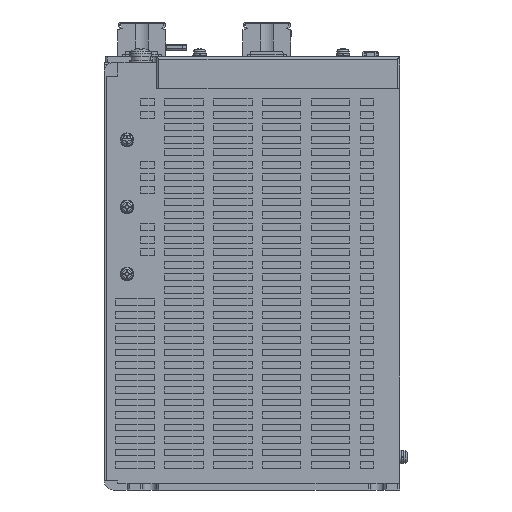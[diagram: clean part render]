
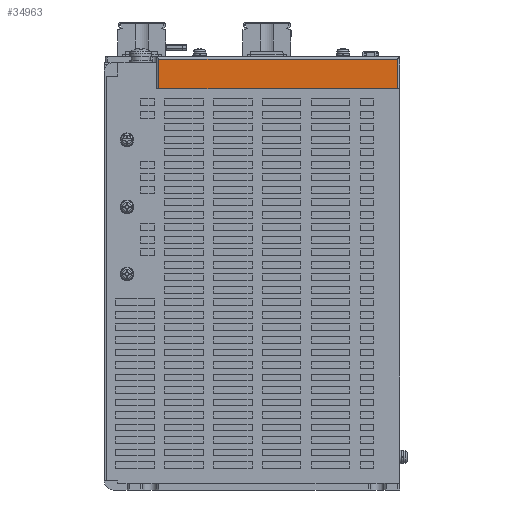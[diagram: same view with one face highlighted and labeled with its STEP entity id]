
A CAD part, front view. The second image highlights one B-rep face of the part: STEP entity #34963.
In plain terms, the highlighted planar face has unit normal (0, -1, 0).
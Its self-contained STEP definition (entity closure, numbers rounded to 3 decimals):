
#1458 = EDGE_LOOP ( 'NONE', ( #59189, #112776, #39645, #264333 ) ) ;
#1839 = VERTEX_POINT ( 'NONE', #92119 ) ;
#2340 = PLANE ( 'NONE',  #95835 ) ;
#13294 = VECTOR ( 'NONE', #174389, 1000. ) ;
#18136 = EDGE_CURVE ( 'NONE', #260823, #102098, #156765, .T. ) ;
#18584 = VECTOR ( 'NONE', #27155, 1000. ) ;
#21822 = CARTESIAN_POINT ( 'NONE',  ( 53.621, -113.446, 460.5 ) ) ;
#27155 = DIRECTION ( 'NONE',  ( 0., 0., 1. ) ) ;
#34963 = ADVANCED_FACE ( 'NONE', ( #45504 ), #2340, .F. ) ;
#39645 = ORIENTED_EDGE ( 'NONE', *, *, #18136, .T. ) ;
#45504 = FACE_OUTER_BOUND ( 'NONE', #1458, .T. ) ;
#46390 = VECTOR ( 'NONE', #251256, 1000. ) ;
#59189 = ORIENTED_EDGE ( 'NONE', *, *, #221839, .F. ) ;
#67592 = LINE ( 'NONE', #212064, #46390 ) ;
#82555 = LINE ( 'NONE', #167579, #205721 ) ;
#92119 = CARTESIAN_POINT ( 'NONE',  ( 53.621, -113.446, 446.5 ) ) ;
#95835 = AXIS2_PLACEMENT_3D ( 'NONE', #204849, #246738, #148110 ) ;
#102098 = VERTEX_POINT ( 'NONE', #129308 ) ;
#112776 = ORIENTED_EDGE ( 'NONE', *, *, #136203, .T. ) ;
#116308 = CARTESIAN_POINT ( 'NONE',  ( 54.621, -113.446, 459.5 ) ) ;
#129308 = CARTESIAN_POINT ( 'NONE',  ( -51.379, -113.446, 459.5 ) ) ;
#136203 = EDGE_CURVE ( 'NONE', #1839, #260823, #230997, .T. ) ;
#148110 = DIRECTION ( 'NONE',  ( -1., 0., 0. ) ) ;
#156588 = EDGE_CURVE ( 'NONE', #102098, #259462, #67592, .T. ) ;
#156765 = LINE ( 'NONE', #116308, #13294 ) ;
#162757 = CARTESIAN_POINT ( 'NONE',  ( 53.621, -113.446, 459.5 ) ) ;
#167579 = CARTESIAN_POINT ( 'NONE',  ( 54.621, -113.446, 446.5 ) ) ;
#174389 = DIRECTION ( 'NONE',  ( -1., 0., 0. ) ) ;
#204849 = CARTESIAN_POINT ( 'NONE',  ( 54.621, -113.446, 460.5 ) ) ;
#205721 = VECTOR ( 'NONE', #229659, 1000. ) ;
#212064 = CARTESIAN_POINT ( 'NONE',  ( -51.379, -113.446, 460.5 ) ) ;
#221839 = EDGE_CURVE ( 'NONE', #1839, #259462, #82555, .T. ) ;
#229659 = DIRECTION ( 'NONE',  ( -1., 0., 0. ) ) ;
#230997 = LINE ( 'NONE', #21822, #18584 ) ;
#246738 = DIRECTION ( 'NONE',  ( 0., 1., 0. ) ) ;
#251256 = DIRECTION ( 'NONE',  ( 0., 0., -1. ) ) ;
#253772 = CARTESIAN_POINT ( 'NONE',  ( -51.379, -113.446, 446.5 ) ) ;
#259462 = VERTEX_POINT ( 'NONE', #253772 ) ;
#260823 = VERTEX_POINT ( 'NONE', #162757 ) ;
#264333 = ORIENTED_EDGE ( 'NONE', *, *, #156588, .T. ) ;
